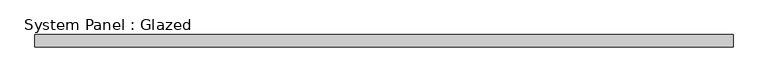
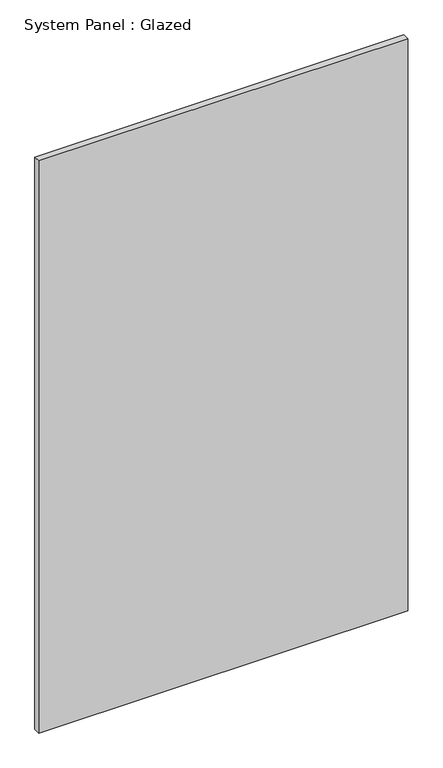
"""IFC4 building model written with IfcOpenShell, lengths in millimetres: plate geometry, System Panel : Glazed."""

from ifc_helpers import new_model, si_unit, origin, origin_with_axes, place, context, project, spatial, polyline, outline, extrude, source, transform, mapped, element, save


def system_panel_glazed_294e175a(model_context):
    return source(origin(), model_context, "Body", "SweptSolid", [
        extrude(outline(polyline([(714.4773927, 19.05), (-714.4773927, 19.05), (-714.4773927, 44.45), (714.4773927, 44.45), (714.4773927, 19.05)])), origin_with_axes(), (0.0, 0.0, 1.0), 2343.15),
    ])


if __name__ == "__main__":
    model = new_model("IFC4")
    model_context = context("Model", 3, world=origin())
    ifc_project = project(units=[si_unit("LENGTHUNIT", "METRE", prefix="MILLI")], contexts=[model_context])
    site = spatial("IfcSite", under=ifc_project)
    building = spatial("IfcBuilding", under=site)
    placement = place(None, origin())
    system_panel_glazed_shape = system_panel_glazed_294e175a(model_context)
    element("IfcPlate", 1, ObjectType="System Panel : Glazed", at=placement, inside=building, context=model_context, shape_type="MappedRepresentation", body=[
        mapped(system_panel_glazed_shape, transform((0.0, 0.0, 0.0), x_axis=(1.0, 0.0, 0.0), y_axis=(0.0, 1.0, 0.0), z_axis=(0.0, 0.0, 1.0))),
    ])
    save(model, "model.ifc")
